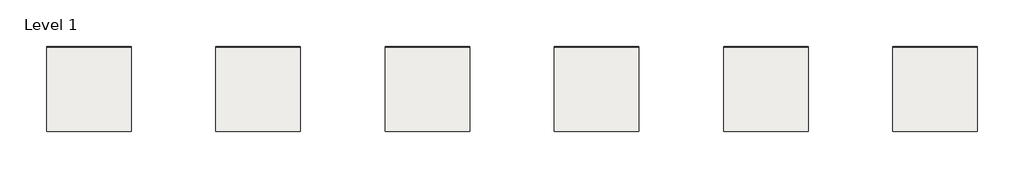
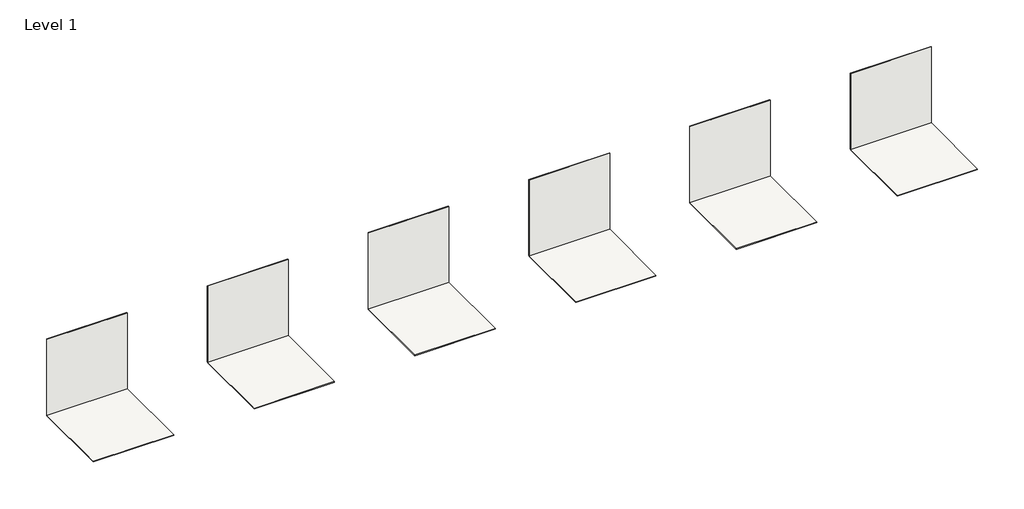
# One storey: 12 coverings.
"""IFC4 building model written with IfcOpenShell, lengths in millimetres."""

from ifc_helpers import new_model, si_unit, frame, origin, origin_with_axes, place, context, project, spatial, polyline, outline, extrude, element, save

model = new_model("IFC4")

# Units and contexts
model_context = context("Model", 3, world=origin())
ifc_project = project(units=[si_unit("LENGTHUNIT", "METRE", prefix="MILLI")], contexts=[model_context])

# Site, building, storey
site = spatial("IfcSite", under=ifc_project)
building = spatial("IfcBuilding", under=site)
storey = spatial("IfcBuildingStorey", under=building, Name="Level 1", Elevation=0.0)

# Coverings
placement = place(None, origin())
element("IfcCovering", 1, ObjectType="REVIGRES-BLOCK-144x144-MATTE-BLACK", at=placement, inside=storey, context=model_context, shape_type="SweptSolid", body=[
    extrude(outline(polyline([(1105.3469355, 18020.3776243), (105.3469355, 18020.3776243), (105.3469355, 18028.8776243), (1105.3469355, 18028.8776243), (1105.3469355, 18020.3776243)])), origin_with_axes(), (0.0, 0.0, 1.0), 1000.0),
])
element("IfcCovering", 2, ObjectType="REVIGRES-BLOCK-144x144-MATTE-BLACK", at=placement, inside=storey, context=model_context, shape_type="SweptSolid", body=[
    extrude(outline(polyline([(1105.3469355, 17020.3776243), (105.3469355, 17020.3776243), (105.3469355, 18020.3776243), (1105.3469355, 18020.3776243), (1105.3469355, 17020.3776243)])), frame((0.0, 0.0, -8.5), z_axis=(0.0, 0.0, 1.0), x_axis=(1.0, 0.0, 0.0)), (0.0, 0.0, 1.0), 8.5),
])
element("IfcCovering", 3, ObjectType="REVIGRES-BLOCK-144x144-MATTE-BLUE", at=placement, inside=storey, context=model_context, shape_type="SweptSolid", body=[
    extrude(outline(polyline([(3105.3469355, 18020.3776243), (2105.3469355, 18020.3776243), (2105.3469355, 18028.8776243), (3105.3469355, 18028.8776243), (3105.3469355, 18020.3776243)])), origin_with_axes(), (0.0, 0.0, 1.0), 1000.0),
])
element("IfcCovering", 4, ObjectType="REVIGRES-BLOCK-144x144-MATTE-BLUE", at=placement, inside=storey, context=model_context, shape_type="SweptSolid", body=[
    extrude(outline(polyline([(3105.3469355, 17020.3776243), (2105.3469355, 17020.3776243), (2105.3469355, 18020.3776243), (3105.3469355, 18020.3776243), (3105.3469355, 17020.3776243)])), frame((0.0, 0.0, -8.5), z_axis=(0.0, 0.0, 1.0), x_axis=(1.0, 0.0, 0.0)), (0.0, 0.0, 1.0), 8.5),
])
element("IfcCovering", 5, ObjectType="REVIGRES-BLOCK-144x144-MATTE-CRAFT", at=placement, inside=storey, context=model_context, shape_type="SweptSolid", body=[
    extrude(outline(polyline([(5105.3469355, 18020.3776243), (4105.3469355, 18020.3776243), (4105.3469355, 18028.8776243), (5105.3469355, 18028.8776243), (5105.3469355, 18020.3776243)])), origin_with_axes(), (0.0, 0.0, 1.0), 1000.0),
])
element("IfcCovering", 6, ObjectType="REVIGRES-BLOCK-144x144-MATTE-CRAFT", at=placement, inside=storey, context=model_context, shape_type="SweptSolid", body=[
    extrude(outline(polyline([(5105.3469355, 17020.3776243), (4105.3469355, 17020.3776243), (4105.3469355, 18020.3776243), (5105.3469355, 18020.3776243), (5105.3469355, 17020.3776243)])), frame((0.0, 0.0, -8.5), z_axis=(0.0, 0.0, 1.0), x_axis=(1.0, 0.0, 0.0)), (0.0, 0.0, 1.0), 8.5),
])
element("IfcCovering", 7, ObjectType="REVIGRES-BLOCK-144x144-MATTE-GREEN", at=placement, inside=storey, context=model_context, shape_type="SweptSolid", body=[
    extrude(outline(polyline([(7105.3469355, 18020.3776243), (6105.3469355, 18020.3776243), (6105.3469355, 18028.8776243), (7105.3469355, 18028.8776243), (7105.3469355, 18020.3776243)])), origin_with_axes(), (0.0, 0.0, 1.0), 1000.0),
])
element("IfcCovering", 8, ObjectType="REVIGRES-BLOCK-144x144-MATTE-GREEN", at=placement, inside=storey, context=model_context, shape_type="SweptSolid", body=[
    extrude(outline(polyline([(7105.3469355, 17020.3776243), (6105.3469355, 17020.3776243), (6105.3469355, 18020.3776243), (7105.3469355, 18020.3776243), (7105.3469355, 17020.3776243)])), frame((0.0, 0.0, -8.5), z_axis=(0.0, 0.0, 1.0), x_axis=(1.0, 0.0, 0.0)), (0.0, 0.0, 1.0), 8.5),
])
element("IfcCovering", 9, ObjectType="REVIGRES-BLOCK-144x144-MATTE-TERRACOTTA", at=placement, inside=storey, context=model_context, shape_type="SweptSolid", body=[
    extrude(outline(polyline([(9105.3469355, 18020.3776243), (8105.3469355, 18020.3776243), (8105.3469355, 18028.8776243), (9105.3469355, 18028.8776243), (9105.3469355, 18020.3776243)])), origin_with_axes(), (0.0, 0.0, 1.0), 1000.0),
])
element("IfcCovering", 10, ObjectType="REVIGRES-BLOCK-144x144-MATTE-TERRACOTTA", at=placement, inside=storey, context=model_context, shape_type="SweptSolid", body=[
    extrude(outline(polyline([(9105.3469355, 17020.3776243), (8105.3469355, 17020.3776243), (8105.3469355, 18020.3776243), (9105.3469355, 18020.3776243), (9105.3469355, 17020.3776243)])), frame((0.0, 0.0, -8.5), z_axis=(0.0, 0.0, 1.0), x_axis=(1.0, 0.0, 0.0)), (0.0, 0.0, 1.0), 8.5),
])
element("IfcCovering", 11, ObjectType="REVIGRES-BLOCK-144x144-MATTE-WHITE", at=placement, inside=storey, context=model_context, shape_type="SweptSolid", body=[
    extrude(outline(polyline([(11105.3469355, 18020.3776243), (10105.3469355, 18020.3776243), (10105.3469355, 18028.8776243), (11105.3469355, 18028.8776243), (11105.3469355, 18020.3776243)])), origin_with_axes(), (0.0, 0.0, 1.0), 1000.0),
])
element("IfcCovering", 12, ObjectType="REVIGRES-BLOCK-144x144-MATTE-WHITE", at=placement, inside=storey, context=model_context, shape_type="SweptSolid", body=[
    extrude(outline(polyline([(11105.3469355, 17020.3776243), (10105.3469355, 17020.3776243), (10105.3469355, 18020.3776243), (11105.3469355, 18020.3776243), (11105.3469355, 17020.3776243)])), frame((0.0, 0.0, -8.5), z_axis=(0.0, 0.0, 1.0), x_axis=(1.0, 0.0, 0.0)), (0.0, 0.0, 1.0), 8.5),
])

save(model, "model.ifc")
